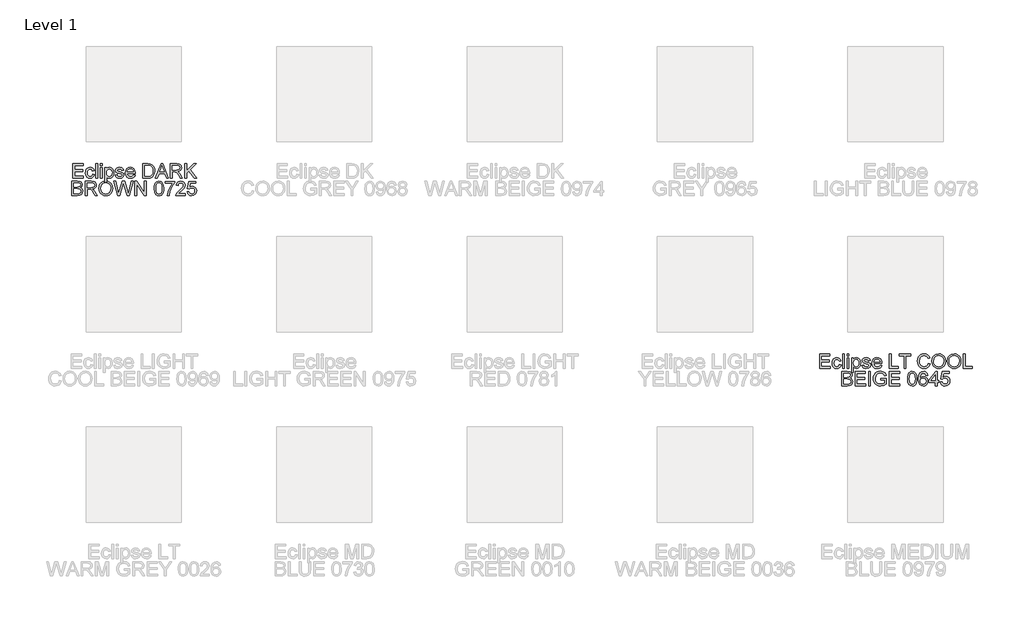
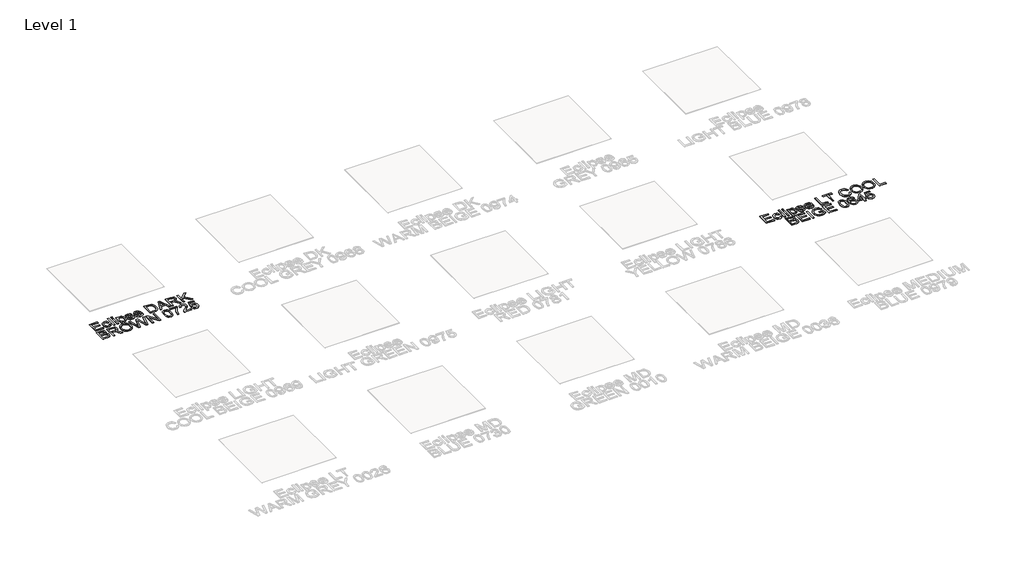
# One storey, part 10 of 13: 2 proxies.
"""IFC4 building model written with IfcOpenShell, lengths in millimetres."""

from ifc_helpers import new_model, si_unit, origin, origin_with_axes, place, context, project, spatial, polyline, outline, extrude, element, save

model = new_model("IFC4")

# Units and contexts
model_context = context("Model", 3, world=origin())
ifc_project = project(units=[si_unit("LENGTHUNIT", "METRE", prefix="MILLI")], contexts=[model_context])

# Site, building, storey
site = spatial("IfcSite", under=ifc_project)
building = spatial("IfcBuilding", under=site)
storey = spatial("IfcBuildingStorey", under=building, Name="Level 1", Elevation=0.0)

# Proxies
placement = place(None, origin())
element("IfcBuildingElementProxy", 1, Name="150mm Arial", ObjectType="150mm Arial", at=placement, inside=storey, context=model_context, shape_type="SweptSolid", body=[
    extrude(outline(polyline([(-2574.3498205, 637.0544578), (-2574.3498205, 787.738923), (-2466.0453611, 787.738923), (-2466.0453611, 768.9033648), (-2555.5142624, 768.9033648), (-2555.5142624, 724.1689142), (-2470.7542507, 724.1689142), (-2470.7542507, 705.3333561), (-2555.5142624, 705.3333561), (-2555.5142624, 655.8900159), (-2463.6909164, 655.8900159), (-2463.6909164, 637.0544578), (-2574.3498205, 637.0544578)])), origin_with_axes(), (0.0, 0.0, 1.0), 5.0),
    extrude(outline(polyline([(-2367.1586808, 677.0800188), (-2348.3231227, 674.7255741), (-2353.5746382, 657.9731477), (-2363.4430727, 645.3134086), (-2376.9995242, 637.3533619), (-2393.3150907, 634.700013), (-2413.3508639, 638.4018256), (-2429.0180383, 649.5072633), (-2439.1301947, 667.5288825), (-2442.5009134, 691.9792397), (-2441.0615751, 708.7408631), (-2436.7435602, 723.2676033), (-2429.4778908, 734.9984405), (-2419.195589, 743.3723544), (-2406.8945348, 748.3939436), (-2393.5726081, 750.0678067), (-2377.6571133, 747.7685442), (-2364.9329948, 740.8707568), (-2355.8049228, 729.7423265), (-2350.6775674, 714.7511352), (-2369.5131256, 712.3966904), (-2378.250323, 726.5049649), (-2393.4254553, 731.2322485), (-2405.5977508, 728.9053949), (-2415.2592517, 721.9248341), (-2421.5638294, 709.9134869), (-2423.6653553, 692.4942744), (-2421.6098146, 674.8405372), (-2415.4431927, 662.7878033), (-2405.9564357, 655.8486292), (-2393.9404901, 653.5355712), (-2384.1870187, 654.979508), (-2376.1901838, 659.3113185), (-2370.3730498, 666.6413672), (-2367.1586808, 677.0800188)])), origin_with_axes(), (0.0, 0.0, 1.0), 5.0),
    extrude(outline(polyline([(-2331.8420093, 637.0544578), (-2331.8420093, 787.738923), (-2313.0064511, 787.738923), (-2313.0064511, 637.0544578), (-2331.8420093, 637.0544578)])), origin_with_axes(), (0.0, 0.0, 1.0), 5.0),
    extrude(outline(polyline([(-2284.7531139, 768.9033648), (-2284.7531139, 787.738923), (-2265.9175558, 787.738923), (-2265.9175558, 768.9033648), (-2284.7531139, 768.9033648)])), origin_with_axes(), (0.0, 0.0, 1.0), 5.0),
    extrude(outline(polyline([(-2284.7531139, 637.0544578), (-2284.7531139, 747.7133619), (-2265.9175558, 747.7133619), (-2265.9175558, 637.0544578), (-2284.7531139, 637.0544578)])), origin_with_axes(), (0.0, 0.0, 1.0), 5.0),
    extrude(outline(polyline([(-2237.6642185, 594.6744519), (-2237.6642185, 747.7133619), (-2218.8286604, 747.7133619), (-2218.8286604, 729.2456858), (-2205.8056377, 744.8622765), (-2188.2208784, 750.0678067), (-2175.4829643, 748.2467908), (-2164.3453369, 742.7837432), (-2155.2770457, 734.0097576), (-2148.7471403, 722.2559279), (-2143.4864278, 693.2300384), (-2144.9717513, 677.1214056), (-2149.427722, 662.7142269), (-2156.7117855, 650.739668), (-2166.6813876, 641.9288942), (-2178.292663, 636.5072333), (-2190.5017467, 634.700013), (-2206.8908896, 639.5376612), (-2218.8286604, 651.7697376), (-2218.8286604, 594.6744519), (-2237.6642185, 594.6744519)]), holes=[polyline([(-2218.8286604, 691.5009931), (-2216.7915138, 674.6152095), (-2210.6800742, 662.8061974), (-2201.6623668, 655.8532277), (-2190.9064169, 653.5355712), (-2179.9757232, 655.9360012), (-2170.7280895, 663.1372912), (-2164.4235118, 675.3785646), (-2162.3219859, 692.8989446), (-2164.372928, 709.6927577), (-2170.5257544, 721.6673167), (-2179.5296662, 728.8410156), (-2190.1338648, 731.2322485), (-2200.77945, 728.6892642), (-2210.1282512, 721.0603114), (-2216.6535581, 708.5845132), (-2218.8286604, 691.5009931)])]), origin_with_axes(), (0.0, 0.0, 1.0), 5.0),
    extrude(outline(polyline([(-2129.3597591, 670.0166845), (-2110.524201, 672.3711293), (-2107.5535539, 664.3145136), (-2101.8053977, 658.3916135), (-2081.8294054, 653.5355712), (-2062.6259652, 657.9869433), (-2056.3719713, 668.434792), (-2057.9446668, 673.235652), (-2062.6627534, 676.8960778), (-2082.0501346, 682.267155), (-2110.4138364, 691.482599), (-2122.7930655, 702.2431473), (-2127.0053144, 717.4366737), (-2123.6208, 731.4713718), (-2114.3869619, 742.195132), (-2102.412403, 747.7685442), (-2086.2072011, 750.0678067), (-2063.2881528, 746.3705926), (-2048.7200258, 736.3642024), (-2042.2453027, 719.4600247), (-2061.0808608, 717.1055799), (-2068.1625893, 727.4982463), (-2084.7356731, 731.2322485), (-2102.7618909, 727.6637932), (-2108.1697562, 719.3496601), (-2105.9256761, 713.8682184), (-2098.8991299, 709.7111518), (-2082.675534, 705.7012381), (-2055.029202, 696.835282), (-2042.1901204, 686.7921035), (-2037.5364132, 670.4213547), (-2042.9994608, 652.395137), (-2058.7632043, 639.316932), (-2082.0869228, 634.700013), (-2101.0788308, 636.9256991), (-2114.9387849, 643.6027573), (-2124.1910171, 654.6576112), (-2129.3597591, 670.0166845)])), origin_with_axes(), (0.0, 0.0, 1.0), 5.0),
    extrude(outline(polyline([(-1938.870462, 670.0166845), (-1920.4027859, 667.6622398), (-1927.0568515, 653.7471033), (-1937.6748456, 643.3452399), (-1952.0176448, 636.8613197), (-1969.846126, 634.700013), (-1991.9466369, 638.4294167), (-2008.9519821, 649.6176279), (-2019.7953039, 667.5380796), (-2023.4097445, 691.4642049), (-2019.7585157, 716.195072), (-2008.8048293, 734.6903393), (-1992.0294103, 746.2234398), (-1970.9129838, 750.0678067), (-1950.4541464, 746.2326369), (-1934.1063902, 734.7271275), (-1923.3872286, 716.2686484), (-1919.8141747, 691.5745695), (-1919.9245393, 686.4977979), (-2004.5741864, 686.4977979), (-2001.3138322, 672.3987205), (-1993.7400616, 662.0336452), (-1982.8093678, 655.6600897), (-1969.478244, 653.5355712), (-1951.0105679, 657.4719085), (-1938.870462, 670.0166845)]), holes=[polyline([(-2004.5741864, 705.3333561), (-1938.6497328, 705.3333561), (-1941.1973157, 715.284564), (-1946.1913138, 722.4030807), (-1957.1725913, 729.0249566), (-1970.9865602, 731.2322485), (-1983.6830876, 729.4710135), (-1994.18152, 724.1873083), (-2001.4793791, 715.9513502), (-2004.5741864, 705.3333561)])]), origin_with_axes(), (0.0, 0.0, 1.0), 5.0),
    extrude(outline(polyline([(-1839.7630525, 637.0544578), (-1839.7630525, 787.738923), (-1787.7813266, 787.738923), (-1760.8891528, 785.5684192), (-1738.7426567, 774.7894768), (-1728.3223992, 763.3115585), (-1720.9003799, 749.0377371), (-1716.4582048, 732.243924), (-1714.9774798, 713.2060308), (-1718.9873935, 682.8005839), (-1729.2880894, 660.8564229), (-1743.046876, 647.1896067), (-1761.0546997, 639.6296317), (-1785.2797291, 637.0544578), (-1839.7630525, 637.0544578)]), holes=[polyline([(-1820.9274944, 655.8900159), (-1787.5973856, 655.8900159), (-1763.3539621, 658.6123427), (-1749.3744463, 666.3010764), (-1737.9149222, 685.0078758), (-1733.8130379, 713.5003364), (-1735.8225933, 734.0281517), (-1741.8512595, 749.1848899), (-1750.7586023, 759.5959504), (-1761.4041876, 765.8867325), (-1788.1124204, 768.9033648), (-1820.9274944, 768.9033648), (-1820.9274944, 655.8900159)])]), origin_with_axes(), (0.0, 0.0, 1.0), 5.0),
    extrude(outline(polyline([(-1706.6265585, 637.0544578), (-1646.4778523, 787.738923), (-1630.4381973, 787.738923), (-1570.2894911, 637.0544578), (-1590.191907, 637.0544578), (-1607.4455726, 684.1433532), (-1669.5072652, 684.1433532), (-1686.7241426, 637.0544578), (-1706.6265585, 637.0544578)]), holes=[polyline([(-1662.5910837, 702.9789113), (-1614.3249659, 702.9789113), (-1627.8998115, 740.0246282), (-1638.4580248, 768.9033648), (-1647.8390157, 743.2619898), (-1662.5910837, 702.9789113)])]), origin_with_axes(), (0.0, 0.0, 1.0), 5.0),
    extrude(outline(polyline([(-1550.1663459, 637.0544578), (-1550.1663459, 787.738923), (-1485.2351738, 787.738923), (-1455.0872443, 783.6738269), (-1445.807421, 778.0452324), (-1438.6061309, 769.2896409), (-1433.9846133, 758.4325236), (-1432.4441075, 746.4993513), (-1434.9962888, 731.6553128), (-1442.6528329, 719.3496601), (-1455.6436658, 710.3273542), (-1474.1987139, 705.3333561), (-1463.4933479, 697.2767404), (-1448.2262451, 677.8893592), (-1423.0999048, 637.0544578), (-1444.9888835, 637.0544578), (-1464.5969939, 668.2876392), (-1478.7604507, 688.9626073), (-1488.7116586, 698.7298743), (-1497.6695852, 702.3167237), (-1508.5956805, 702.9789113), (-1531.3307878, 702.9789113), (-1531.3307878, 637.0544578), (-1550.1663459, 637.0544578)]), holes=[polyline([(-1531.3307878, 721.8144695), (-1489.1715111, 721.8144695), (-1467.6688085, 724.4816139), (-1455.4551263, 733.0164762), (-1451.2796656, 745.8003755), (-1453.2708269, 754.9882284), (-1459.2443108, 762.3918535), (-1469.5220141, 767.275487), (-1484.4258334, 768.9033648), (-1531.3307878, 768.9033648), (-1531.3307878, 721.8144695)])]), origin_with_axes(), (0.0, 0.0, 1.0), 5.0),
    extrude(outline(polyline([(-1399.4818807, 637.0544578), (-1399.4818807, 787.738923), (-1380.6463226, 787.738923), (-1380.6463226, 713.978583), (-1303.3911036, 787.738923), (-1277.0507527, 787.738923), (-1341.9083485, 725.787595), (-1274.696308, 637.0544578), (-1297.7257209, 637.0544578), (-1355.2624649, 713.058878), (-1380.6463226, 688.8522427), (-1380.6463226, 637.0544578), (-1399.4818807, 637.0544578)])), origin_with_axes(), (0.0, 0.0, 1.0), 5.0),
    extrude(outline(polyline([(-2583.7675996, 454.092231), (-2583.7675996, 604.7766962), (-2526.2676437, 604.7766962), (-2498.106277, 600.3437182), (-2488.6425127, 594.7197222), (-2481.4780108, 586.7136903), (-2475.4631402, 567.4366737), (-2480.5215176, 549.8335202), (-2495.8070145, 536.4977979), (-2485.1338382, 530.9243857), (-2477.2473679, 522.4447057), (-2472.37753, 511.619778), (-2470.7542507, 499.0106226), (-2475.1872287, 478.7587188), (-2486.1685063, 464.3377446), (-2502.5576492, 456.6857991), (-2526.7091021, 454.092231), (-2583.7675996, 454.092231)]), holes=[polyline([(-2564.9320414, 543.5611322), (-2530.5350749, 543.5611322), (-2510.448718, 545.179813), (-2498.3637944, 552.1511768), (-2494.2986984, 564.4200414), (-2498.0878829, 576.7073), (-2508.9404018, 583.9729694), (-2533.1470371, 585.9411381), (-2564.9320414, 585.9411381), (-2564.9320414, 543.5611322)]), polyline([(-2564.9320414, 472.9277892), (-2526.3044319, 472.9277892), (-2512.3249161, 473.6635531), (-2500.49751, 477.7654374), (-2492.6616235, 486.1347528), (-2489.5898088, 498.8266816), (-2493.1950524, 513.468385), (-2504.8753057, 522.2055824), (-2528.1438419, 524.7255741), (-2564.9320414, 524.7255741), (-2564.9320414, 472.9277892)])]), origin_with_axes(), (0.0, 0.0, 1.0), 5.0),
    extrude(outline(polyline([(-2444.8553582, 454.092231), (-2444.8553582, 604.7766962), (-2379.9241861, 604.7766962), (-2349.7762566, 600.7116002), (-2340.4964332, 595.0830057), (-2333.2951432, 586.3274142), (-2328.6736256, 575.4702968), (-2327.1331198, 563.5371246), (-2329.6853011, 548.6930861), (-2337.3418451, 536.3874333), (-2350.3326781, 527.3651274), (-2368.8877262, 522.3711293), (-2358.1823601, 514.3145136), (-2342.9152573, 494.9271325), (-2317.7889171, 454.092231), (-2339.6778958, 454.092231), (-2359.2860061, 485.3254124), (-2373.4494629, 506.0003805), (-2383.4006709, 515.7676475), (-2392.3585975, 519.3544969), (-2403.2846928, 520.0166845), (-2426.0198001, 520.0166845), (-2426.0198001, 454.092231), (-2444.8553582, 454.092231)]), holes=[polyline([(-2426.0198001, 538.8522427), (-2383.8605234, 538.8522427), (-2362.3578208, 541.5193872), (-2350.1441386, 550.0542494), (-2345.9686779, 562.8381488), (-2347.9598392, 572.0260016), (-2353.9333231, 579.4296268), (-2364.2110263, 584.3132602), (-2379.1148457, 585.9411381), (-2426.0198001, 585.9411381), (-2426.0198001, 538.8522427)])]), origin_with_axes(), (0.0, 0.0, 1.0), 5.0),
    extrude(outline(polyline([(-2301.2342273, 527.4479008), (-2296.2126381, 560.7688126), (-2289.9356515, 574.3873442), (-2281.1478704, 585.9779263), (-2258.1460486, 601.8428373), (-2229.3132972, 607.131141), (-2209.548837, 604.6479375), (-2191.8261219, 597.1983271), (-2177.1108421, 585.3065416), (-2166.3686879, 569.4968129), (-2159.8019942, 550.532496), (-2157.6130964, 529.1769462), (-2159.9169574, 507.5362879), (-2166.8285404, 488.3052566), (-2177.9661678, 472.4679367), (-2192.948162, 461.0084125), (-2210.5191258, 454.0554428), (-2229.4236618, 451.7377862), (-2249.4916247, 454.2991646), (-2267.3155073, 461.9832998), (-2281.9939989, 474.0958145), (-2292.6257886, 489.9423314), (-2299.0821176, 508.1754828), (-2301.2342273, 527.4479008)]), holes=[polyline([(-2282.3986691, 527.2639598), (-2278.6324772, 503.691921), (-2267.3339014, 485.7300826), (-2250.3515488, 474.3625289), (-2229.5340264, 470.5733444), (-2208.4130014, 474.3993171), (-2191.4030576, 485.8772354), (-2180.1872553, 504.3908968), (-2176.4486545, 529.324099), (-2178.0489412, 545.9983504), (-2182.8498012, 560.4101276), (-2190.7270745, 572.196147), (-2201.5566007, 580.9931252), (-2214.6210101, 586.4699684), (-2229.2029326, 588.2955828), (-2249.4640335, 584.7777113), (-2266.6901079, 574.2240965), (-2278.4715288, 555.4483192), (-2282.3986691, 527.2639598)])]), origin_with_axes(), (0.0, 0.0, 1.0), 5.0),
    extrude(outline(polyline([(-2104.7484537, 454.092231), (-2145.8408725, 604.7766962), (-2126.4167032, 604.7766962), (-2102.5779499, 505.7428631), (-2095.22031, 475.1718693), (-2087.3476353, 502.211196), (-2057.4756173, 604.7766962), (-2029.4797975, 604.7766962), (-2007.7747597, 530.427745), (-1991.6247402, 475.1718693), (-1984.4878294, 504.8599463), (-1960.428347, 604.7766962), (-1941.0041776, 604.7766962), (-1982.1333847, 454.092231), (-2002.2565298, 454.092231), (-2038.3825417, 570.3429415), (-2043.4225251, 586.5665375), (-2049.0879078, 567.0320035), (-2082.0133464, 454.092231), (-2104.7484537, 454.092231)])), origin_with_axes(), (0.0, 0.0, 1.0), 5.0),
    extrude(outline(polyline([(-1922.1686195, 454.092231), (-1922.1686195, 604.7766962), (-1902.0086861, 604.7766962), (-1823.2819392, 485.3989888), (-1823.2819392, 604.7766962), (-1804.446381, 604.7766962), (-1804.446381, 454.092231), (-1824.6063143, 454.092231), (-1903.3330613, 573.5067266), (-1903.3330613, 454.092231), (-1922.1686195, 454.092231)])), origin_with_axes(), (0.0, 0.0, 1.0), 5.0),
    extrude(outline(polyline([(-1719.6863693, 528.220453), (-1718.3022133, 552.3397163), (-1714.1497453, 571.5753462), (-1707.270352, 586.2216481), (-1697.7054201, 596.5729277), (-1685.3859718, 602.7257541), (-1670.2430292, 604.7766962), (-1648.2436859, 599.9206539), (-1633.0501595, 585.922744), (-1624.2209916, 563.6290951), (-1620.799689, 528.220453), (-1622.1700494, 504.2391455), (-1626.2811307, 485.0495009), (-1633.1191373, 470.3894034), (-1642.6702736, 459.996737), (-1655.0173131, 453.8025239), (-1670.2430292, 451.7377862), (-1689.8143513, 455.3246357), (-1704.6767839, 466.085184), (-1715.933973, 491.5702093), (-1719.6863693, 528.220453)]), holes=[polyline([(-1700.8508112, 528.2572412), (-1698.6435192, 498.628945), (-1692.0216433, 481.4810455), (-1682.1624058, 473.3002697), (-1670.2430292, 470.5733444), (-1658.3236525, 473.3094667), (-1648.4644151, 481.5178337), (-1641.8425391, 498.6749303), (-1639.6352472, 528.2572412), (-1641.7689627, 557.2187513), (-1648.1701095, 574.500008), (-1658.0109528, 583.0808556), (-1670.4637584, 585.9411381), (-1682.2543763, 583.4211464), (-1691.7273377, 575.8611714), (-1698.5699428, 557.5038598), (-1700.8508112, 528.2572412)])]), origin_with_axes(), (0.0, 0.0, 1.0), 5.0),
    extrude(outline(polyline([(-1604.3185756, 583.5866933), (-1604.3185756, 602.4222515), (-1505.4318953, 602.4222515), (-1505.4318953, 587.1919369), (-1533.4828975, 546.6697351), (-1545.7931487, 521.2077025), (-1554.9488119, 495.0374971), (-1561.9385698, 454.092231), (-1580.7741279, 454.092231), (-1573.2877293, 496.5826014), (-1564.5735246, 521.0421556), (-1552.7415199, 544.6095959), (-1524.2674535, 583.5866933), (-1604.3185756, 583.5866933)])), origin_with_axes(), (0.0, 0.0, 1.0), 5.0),
    extrude(outline(polyline([(-1392.4185464, 472.9277892), (-1392.4185464, 454.092231), (-1491.3052267, 454.092231), (-1489.2818757, 467.0784654), (-1477.8407457, 487.0728519), (-1454.2595098, 508.9066483), (-1421.7387414, 540.2869825), (-1415.6410974, 551.1027131), (-1413.6085493, 561.6241382), (-1415.5261342, 571.0557128), (-1421.2788889, 578.8961979), (-1430.1218524, 584.179903), (-1441.3100636, 585.9411381), (-1453.0592948, 584.2212897), (-1462.1873668, 579.0617448), (-1468.0780772, 570.8671733), (-1470.1152238, 560.0422456), (-1488.9507819, 562.3966904), (-1484.3844467, 580.6160462), (-1474.5114136, 593.9241774), (-1459.8467176, 602.0635665), (-1440.9053934, 604.7766962), (-1421.8261134, 601.7600639), (-1407.1890085, 592.7101668), (-1397.8769955, 579.1905035), (-1394.7729912, 562.7645724), (-1398.1207173, 544.9039015), (-1409.2491477, 526.4362254), (-1436.233292, 500.6293034), (-1457.9015416, 482.5111151), (-1466.3996156, 472.9277892), (-1392.4185464, 472.9277892)])), origin_with_axes(), (0.0, 0.0, 1.0), 5.0),
    extrude(outline(polyline([(-1373.5829883, 494.1177921), (-1354.7474301, 496.4722368), (-1351.2893393, 485.164464), (-1345.2560746, 477.0664616), (-1336.6752271, 472.1966237), (-1325.5743879, 470.5733444), (-1312.0731187, 472.8312201), (-1301.9563638, 479.6048474), (-1295.6379905, 490.1124769), (-1293.5318661, 503.5723594), (-1295.5046333, 516.2458941), (-1301.4229349, 525.9395847), (-1311.3327561, 532.092411), (-1325.2800823, 534.1433532), (-1341.816378, 530.8692034), (-1352.3929853, 522.3711293), (-1371.2285435, 524.7255741), (-1354.7474301, 602.4222515), (-1281.7596423, 602.4222515), (-1281.7596423, 583.5866933), (-1339.5171155, 583.5866933), (-1347.5737312, 542.0896042), (-1334.1184472, 550.2565845), (-1320.0193698, 552.9789113), (-1302.4208148, 549.603594), (-1287.8113011, 539.4776421), (-1277.9750562, 524.0449924), (-1274.696308, 504.7495817), (-1277.648561, 485.9140236), (-1286.50532, 469.8007922), (-1303.46468, 456.2535377), (-1325.6479643, 451.7377862), (-1344.1478301, 454.6394555), (-1358.8861026, 463.3444632), (-1368.9890618, 476.8411339), (-1373.5829883, 494.1177921)])), origin_with_axes(), (0.0, 0.0, 1.0), 5.0),
])
element("IfcBuildingElementProxy", 2, Name="150mm Arial", ObjectType="150mm Arial", at=placement, inside=storey, context=model_context, shape_type="SweptSolid", body=[
    extrude(outline(polyline([(5269.0796023, -1362.9455422), (5269.0796023, -1212.261077), (5377.3840617, -1212.261077), (5377.3840617, -1231.0966352), (5287.9151605, -1231.0966352), (5287.9151605, -1275.8310858), (5372.6751722, -1275.8310858), (5372.6751722, -1294.6666439), (5287.9151605, -1294.6666439), (5287.9151605, -1344.1099841), (5379.7385065, -1344.1099841), (5379.7385065, -1362.9455422), (5269.0796023, -1362.9455422)])), origin_with_axes(), (0.0, 0.0, 1.0), 5.0),
    extrude(outline(polyline([(5476.270742, -1322.9199812), (5495.1063002, -1325.2744259), (5489.8547847, -1342.0268523), (5479.9863502, -1354.6865914), (5466.4298987, -1362.6466381), (5450.1143322, -1365.299987), (5430.078559, -1361.5981744), (5414.4113845, -1350.4927367), (5404.2992282, -1332.4711175), (5400.9285094, -1308.0207603), (5402.3678477, -1291.2591369), (5406.6858626, -1276.7323967), (5413.951532, -1265.0015595), (5424.2338338, -1256.6276456), (5436.534888, -1251.6060564), (5449.8568148, -1249.9321933), (5465.7723096, -1252.2314558), (5478.4964281, -1259.1292432), (5487.6245001, -1270.2576735), (5492.7518554, -1285.2488648), (5473.9162973, -1287.6033096), (5465.1790999, -1273.4950351), (5450.0039676, -1268.7677515), (5437.8316721, -1271.0946051), (5428.1701712, -1278.0751659), (5421.8655935, -1290.0865131), (5419.7640676, -1307.5057256), (5421.8196082, -1325.1594628), (5427.9862302, -1337.2121967), (5437.4729871, -1344.1513708), (5449.4889328, -1346.4644288), (5459.2424042, -1345.020492), (5467.239239, -1340.6886815), (5473.0563731, -1333.3586328), (5476.270742, -1322.9199812)])), origin_with_axes(), (0.0, 0.0, 1.0), 5.0),
    extrude(outline(polyline([(5511.5874136, -1362.9455422), (5511.5874136, -1212.261077), (5530.4229717, -1212.261077), (5530.4229717, -1362.9455422), (5511.5874136, -1362.9455422)])), origin_with_axes(), (0.0, 0.0, 1.0), 5.0),
    extrude(outline(polyline([(5558.6763089, -1231.0966352), (5558.6763089, -1212.261077), (5577.5118671, -1212.261077), (5577.5118671, -1231.0966352), (5558.6763089, -1231.0966352)])), origin_with_axes(), (0.0, 0.0, 1.0), 5.0),
    extrude(outline(polyline([(5558.6763089, -1362.9455422), (5558.6763089, -1252.2866381), (5577.5118671, -1252.2866381), (5577.5118671, -1362.9455422), (5558.6763089, -1362.9455422)])), origin_with_axes(), (0.0, 0.0, 1.0), 5.0),
    extrude(outline(polyline([(5605.7652043, -1405.3255481), (5605.7652043, -1252.2866381), (5624.6007625, -1252.2866381), (5624.6007625, -1270.7543142), (5637.6237851, -1255.1377235), (5655.2085445, -1249.9321933), (5667.9464586, -1251.7532092), (5679.084086, -1257.2162568), (5688.1523771, -1265.9902424), (5694.6822826, -1277.7440721), (5699.9429951, -1306.7699616), (5698.4576715, -1322.8785944), (5694.0017009, -1337.2857731), (5686.7176374, -1349.260332), (5676.7480353, -1358.0711058), (5665.1367598, -1363.4927667), (5652.9276761, -1365.299987), (5636.5385332, -1360.4623388), (5624.6007625, -1348.2302624), (5624.6007625, -1405.3255481), (5605.7652043, -1405.3255481)]), holes=[polyline([(5624.6007625, -1308.4990069), (5626.637909, -1325.3847905), (5632.7493487, -1337.1938026), (5641.7670561, -1344.1467723), (5652.5230059, -1346.4644288), (5663.4536997, -1344.0639988), (5672.7013333, -1336.8627088), (5679.005911, -1324.6214354), (5681.1074369, -1307.1010554), (5679.0564948, -1290.3072423), (5672.9036684, -1278.3326833), (5663.8997566, -1271.1589844), (5653.2955581, -1268.7677515), (5642.6499729, -1271.3107358), (5633.3011717, -1278.9396886), (5626.7758648, -1291.4154868), (5624.6007625, -1308.4990069)])]), origin_with_axes(), (0.0, 0.0, 1.0), 5.0),
    extrude(outline(polyline([(5714.0696637, -1329.9833155), (5732.9052219, -1327.6288707), (5735.875869, -1335.6854864), (5741.6240251, -1341.6083865), (5761.6000175, -1346.4644288), (5780.8034576, -1342.0130567), (5787.0574515, -1331.565208), (5785.484756, -1326.764348), (5780.7666694, -1323.1039222), (5761.3792883, -1317.732845), (5733.0155865, -1308.517401), (5720.6363573, -1297.7568527), (5716.4241085, -1282.5633263), (5719.8086228, -1268.5286282), (5729.0424609, -1257.804868), (5741.0170199, -1252.2314558), (5757.2222217, -1249.9321933), (5780.14127, -1253.6294074), (5794.709397, -1263.6357976), (5801.1841202, -1280.5399753), (5782.348562, -1282.8944201), (5775.2668336, -1272.5017537), (5758.6937497, -1268.7677515), (5740.667532, -1272.3362068), (5735.2596666, -1280.6503399), (5737.5037468, -1286.1317816), (5744.5302929, -1290.2888482), (5760.7538889, -1294.2987619), (5788.4002208, -1303.164718), (5801.2393025, -1313.2078965), (5805.8930097, -1329.5786453), (5800.4299621, -1347.604863), (5784.6662186, -1360.683068), (5761.3425001, -1365.299987), (5742.3505921, -1363.0743009), (5728.4906379, -1356.3972427), (5719.2384057, -1345.3423888), (5714.0696637, -1329.9833155)])), origin_with_axes(), (0.0, 0.0, 1.0), 5.0),
    extrude(outline(polyline([(5904.5589608, -1329.9833155), (5923.026637, -1332.3377602), (5916.3725714, -1346.2528967), (5905.7545773, -1356.6547601), (5891.411778, -1363.1386803), (5873.5832968, -1365.299987), (5851.482786, -1361.5705833), (5834.4774407, -1350.3823721), (5823.6341189, -1332.4619204), (5820.0196783, -1308.5357951), (5823.6709071, -1283.804928), (5834.6245935, -1265.3096607), (5851.4000125, -1253.7765602), (5872.516439, -1249.9321933), (5892.9752765, -1253.7673631), (5909.3230326, -1265.2728725), (5920.0421943, -1283.7313516), (5923.6152482, -1308.4254305), (5923.5048836, -1313.5022021), (5838.8552365, -1313.5022021), (5842.1155907, -1327.6012795), (5849.6893612, -1337.9663548), (5860.620055, -1344.3399103), (5873.9511788, -1346.4644288), (5892.418855, -1342.5280915), (5904.5589608, -1329.9833155)]), holes=[polyline([(5838.8552365, -1294.6666439), (5904.77969, -1294.6666439), (5902.2321072, -1284.715436), (5897.2381091, -1277.5969193), (5886.2568315, -1270.9750434), (5872.4428626, -1268.7677515), (5859.7463353, -1270.5289865), (5849.2479028, -1275.8126917), (5841.9500438, -1284.0486498), (5838.8552365, -1294.6666439)])]), origin_with_axes(), (0.0, 0.0, 1.0), 5.0),
    extrude(outline(polyline([(6003.6663703, -1362.9455422), (6003.6663703, -1212.261077), (6022.5019285, -1212.261077), (6022.5019285, -1344.1099841), (6097.8441611, -1344.1099841), (6097.8441611, -1362.9455422), (6003.6663703, -1362.9455422)])), origin_with_axes(), (0.0, 0.0, 1.0), 5.0),
    extrude(outline(polyline([(6156.7052803, -1362.9455422), (6156.7052803, -1231.0966352), (6107.2619401, -1231.0966352), (6107.2619401, -1212.261077), (6224.9841786, -1212.261077), (6224.9841786, -1231.0966352), (6175.5408385, -1231.0966352), (6175.5408385, -1362.9455422), (6156.7052803, -1362.9455422)])), origin_with_axes(), (0.0, 0.0, 1.0), 5.0),
    extrude(outline(polyline([(6410.9853154, -1309.3819237), (6429.8208735, -1314.2379661), (6421.1296614, -1336.1867256), (6407.4904364, -1352.2217821), (6389.5745832, -1362.0304358), (6368.0534865, -1365.299987), (6346.2058945, -1362.8259806), (6328.8556599, -1355.4039613), (6315.5567258, -1343.2914466), (6305.8630352, -1326.7459539), (6299.9447336, -1307.2941934), (6297.9719664, -1286.4628754), (6300.202251, -1264.4911233), (6306.8931048, -1245.5176094), (6317.6950399, -1230.1447405), (6332.2585684, -1218.9749234), (6349.5306281, -1212.173705), (6368.4581567, -1209.9066322), (6389.1101322, -1212.8404911), (6406.1844553, -1221.6420679), (6419.1476971, -1235.7687365), (6427.4664288, -1254.677871), (6408.6308706, -1259.1660314), (6402.1009652, -1245.4302374), (6393.1798268, -1236.0078598), (6381.7570909, -1230.5586077), (6367.7223927, -1228.7421904), (6351.544782, -1230.7563443), (6338.2550449, -1236.7988061), (6328.1704797, -1246.2349793), (6321.6083846, -1258.4302674), (6316.8075246, -1286.4260872), (6318.2284688, -1303.8269056), (6322.4913014, -1318.8732792), (6329.7569708, -1330.9903924), (6340.1864254, -1339.6034296), (6352.6898147, -1344.749179), (6366.1772884, -1346.4644288), (6381.8996451, -1344.1283782), (6395.0008427, -1337.1202262), (6404.8922698, -1325.5135492), (6410.9853154, -1309.3819237)])), origin_with_axes(), (0.0, 0.0, 1.0), 5.0),
    extrude(outline(polyline([(6448.6564317, -1289.5898724), (6453.6780209, -1256.2689607), (6459.9550074, -1242.6504291), (6468.7427886, -1231.059847), (6491.7446104, -1215.1949359), (6520.5773617, -1209.9066322), (6540.3418219, -1212.3898357), (6558.064537, -1219.8394461), (6572.7798168, -1231.7312316), (6583.5219711, -1247.5409603), (6590.0886647, -1266.5052772), (6592.2775626, -1287.860827), (6589.9737016, -1309.5014854), (6583.0621186, -1328.7325167), (6571.9244912, -1344.5698366), (6556.942497, -1356.0293607), (6539.3715332, -1362.9823304), (6520.4669971, -1365.299987), (6500.3990343, -1362.7386086), (6482.5751516, -1355.0544734), (6467.89666, -1342.9419587), (6457.2648704, -1327.0954418), (6450.8085413, -1308.8622904), (6448.6564317, -1289.5898724)]), holes=[polyline([(6467.4919898, -1289.7738134), (6471.2581818, -1313.3458522), (6482.5567575, -1331.3076906), (6499.5391101, -1342.6752443), (6520.3566325, -1346.4644288), (6541.4776576, -1342.6384561), (6558.4876013, -1331.1605378), (6569.7034037, -1312.6468764), (6573.4420044, -1287.7136742), (6571.8417178, -1271.0394228), (6567.0408577, -1256.6276456), (6559.1635845, -1244.8416262), (6548.3340583, -1236.044648), (6535.2696489, -1230.5678048), (6520.6877263, -1228.7421904), (6500.4266254, -1232.260062), (6483.200551, -1242.8136767), (6471.4191301, -1261.589454), (6467.4919898, -1289.7738134)])]), origin_with_axes(), (0.0, 0.0, 1.0), 5.0),
    extrude(outline(polyline([(6611.1131207, -1289.5898724), (6616.13471, -1256.2689607), (6622.4116965, -1242.6504291), (6631.1994777, -1231.059847), (6654.2012994, -1215.1949359), (6683.0340508, -1209.9066322), (6702.798511, -1212.3898357), (6720.5212261, -1219.8394461), (6735.2365059, -1231.7312316), (6745.9786602, -1247.5409603), (6752.5453538, -1266.5052772), (6754.7342517, -1287.860827), (6752.4303907, -1309.5014854), (6745.5188077, -1328.7325167), (6734.3811803, -1344.5698366), (6719.399186, -1356.0293607), (6701.8282222, -1362.9823304), (6682.9236862, -1365.299987), (6662.8557234, -1362.7386086), (6645.0318407, -1355.0544734), (6630.3533491, -1342.9419587), (6619.7215594, -1327.0954418), (6613.2652304, -1308.8622904), (6611.1131207, -1289.5898724)]), holes=[polyline([(6629.9486789, -1289.7738134), (6633.7148708, -1313.3458522), (6645.0134466, -1331.3076906), (6661.9957992, -1342.6752443), (6682.8133216, -1346.4644288), (6703.9343467, -1342.6384561), (6720.9442904, -1331.1605378), (6732.1600927, -1312.6468764), (6735.8986935, -1287.7136742), (6734.2984068, -1271.0394228), (6729.4975468, -1256.6276456), (6721.6202736, -1244.8416262), (6710.7907473, -1236.044648), (6697.726338, -1230.5678048), (6683.1444154, -1228.7421904), (6662.8833145, -1232.260062), (6645.6572401, -1242.8136767), (6633.8758192, -1261.589454), (6629.9486789, -1289.7738134)])]), origin_with_axes(), (0.0, 0.0, 1.0), 5.0),
    extrude(outline(polyline([(6780.6331441, -1362.9455422), (6780.6331441, -1212.261077), (6799.4687023, -1212.261077), (6799.4687023, -1344.1099841), (6874.8109349, -1344.1099841), (6874.8109349, -1362.9455422), (6780.6331441, -1362.9455422)])), origin_with_axes(), (0.0, 0.0, 1.0), 5.0),
    extrude(outline(polyline([(5503.3468569, -1545.907769), (5503.3468569, -1395.2233038), (5560.8468127, -1395.2233038), (5589.0081794, -1399.6562818), (5598.4719438, -1405.2802778), (5605.6364456, -1413.2863097), (5611.6513162, -1432.5633263), (5606.5929388, -1450.1664798), (5591.3074419, -1463.5022021), (5601.9806183, -1469.0756143), (5609.8670886, -1477.5552943), (5614.7369265, -1488.380222), (5616.3602058, -1500.9893774), (5611.9272277, -1521.2412812), (5600.9459502, -1535.6622554), (5584.5568073, -1543.3142009), (5560.4053543, -1545.907769), (5503.3468569, -1545.907769)]), holes=[polyline([(5522.182415, -1527.0722108), (5560.8100245, -1527.0722108), (5574.7895403, -1526.3364469), (5586.6169465, -1522.2345626), (5594.452833, -1513.8652472), (5597.5246476, -1501.1733184), (5593.9194041, -1486.531615), (5582.2391507, -1477.7944176), (5558.9706145, -1475.2744259), (5522.182415, -1475.2744259), (5522.182415, -1527.0722108)]), polyline([(5522.182415, -1456.4388678), (5556.5793816, -1456.4388678), (5576.6657385, -1454.820187), (5588.750662, -1447.8488232), (5592.8157581, -1435.5799586), (5589.0265735, -1423.2927), (5578.1740547, -1416.0270306), (5553.9674194, -1414.0588619), (5522.182415, -1414.0588619), (5522.182415, -1456.4388678)])]), origin_with_axes(), (0.0, 0.0, 1.0), 5.0),
    extrude(outline(polyline([(5642.2590982, -1545.907769), (5642.2590982, -1395.2233038), (5750.5635576, -1395.2233038), (5750.5635576, -1414.0588619), (5661.0946564, -1414.0588619), (5661.0946564, -1458.7933125), (5745.8546681, -1458.7933125), (5745.8546681, -1477.6288707), (5661.0946564, -1477.6288707), (5661.0946564, -1527.0722108), (5752.9180024, -1527.0722108), (5752.9180024, -1545.907769), (5642.2590982, -1545.907769)])), origin_with_axes(), (0.0, 0.0, 1.0), 5.0),
    extrude(outline(polyline([(5783.5257844, -1545.907769), (5783.5257844, -1395.2233038), (5802.3613425, -1395.2233038), (5802.3613425, -1545.907769), (5783.5257844, -1545.907769)])), origin_with_axes(), (0.0, 0.0, 1.0), 5.0),
    extrude(outline(polyline([(5910.6658019, -1487.0466498), (5910.6658019, -1468.2110916), (5971.8813659, -1468.2110916), (5971.8813659, -1524.5338251), (5941.65986, -1542.3025254), (5909.7093087, -1548.2622138), (5888.5790866, -1545.8939734), (5869.4814126, -1538.7892524), (5853.6165015, -1527.196371), (5842.1845685, -1511.3636497), (5835.2729855, -1492.3717416), (5832.9691245, -1471.3013004), (5835.2637885, -1450.0791078), (5842.1477803, -1430.3376402), (5853.3359915, -1413.7783519), (5868.5433135, -1402.1026971), (5887.0661719, -1395.1773185), (5908.2009926, -1392.868859), (5937.6683404, -1398.221542), (5949.4175716, -1404.6226887), (5958.3249144, -1413.1207628), (5969.7108622, -1438.044768), (5952.346832, -1442.9375985), (5943.7567874, -1425.5183861), (5929.0782958, -1415.4752076), (5907.906687, -1411.7044172), (5883.7920222, -1415.7695132), (5867.3844852, -1426.4380911), (5857.6907946, -1440.9510358), (5851.8046827, -1470.5287482), (5853.5751148, -1488.5411704), (5858.8864111, -1503.3622163), (5867.5776232, -1514.8861198), (5879.4878028, -1523.0071148), (5893.4259319, -1527.8217704), (5908.2009926, -1529.4266556), (5933.9711263, -1524.5890074), (5953.0458078, -1514.2699174), (5953.0458078, -1487.0466498), (5910.6658019, -1487.0466498)])), origin_with_axes(), (0.0, 0.0, 1.0), 5.0),
    extrude(outline(polyline([(6002.4891479, -1545.907769), (6002.4891479, -1395.2233038), (6110.7936073, -1395.2233038), (6110.7936073, -1414.0588619), (6021.3247061, -1414.0588619), (6021.3247061, -1458.7933125), (6106.0847178, -1458.7933125), (6106.0847178, -1477.6288707), (6021.3247061, -1477.6288707), (6021.3247061, -1527.0722108), (6113.1480521, -1527.0722108), (6113.1480521, -1545.907769), (6002.4891479, -1545.907769)])), origin_with_axes(), (0.0, 0.0, 1.0), 5.0),
    extrude(outline(polyline([(6193.1991742, -1471.779547), (6194.5833302, -1447.6602837), (6198.7357982, -1428.4246538), (6205.6151916, -1413.7783519), (6215.1801234, -1403.4270723), (6227.4995717, -1397.2742459), (6242.6425144, -1395.2233038), (6264.6418577, -1400.0793461), (6279.8353841, -1414.077256), (6288.664552, -1436.3709049), (6292.0858545, -1471.779547), (6290.7154941, -1495.7608545), (6286.6044128, -1514.9504991), (6279.7664062, -1529.6105966), (6270.2152699, -1540.003263), (6257.8682304, -1546.1974761), (6242.6425144, -1548.2622138), (6223.0711922, -1544.6753643), (6208.2087596, -1533.914816), (6196.9515706, -1508.4297907), (6193.1991742, -1471.779547)]), holes=[polyline([(6212.0347324, -1471.7427588), (6214.2420243, -1501.371055), (6220.8639003, -1518.5189545), (6230.7231377, -1526.6997303), (6242.6425144, -1529.4266556), (6254.561891, -1526.6905333), (6264.4211285, -1518.4821663), (6271.0430044, -1501.3250697), (6273.2502964, -1471.7427588), (6271.1165808, -1442.7812487), (6264.7154341, -1425.499992), (6254.8745907, -1416.9191444), (6242.4217852, -1414.0588619), (6230.6311672, -1416.5788536), (6221.1582059, -1424.1388286), (6214.3156007, -1442.4961402), (6212.0347324, -1471.7427588)])]), origin_with_axes(), (0.0, 0.0, 1.0), 5.0),
    extrude(outline(polyline([(6405.0992034, -1435.2488648), (6386.2636453, -1437.6033096), (6379.1267346, -1421.8947484), (6370.5826752, -1416.0178336), (6360.2543882, -1414.0588619), (6343.2582401, -1418.6205987), (6330.4007643, -1435.7455055), (6326.4966166, -1449.7756051), (6325.0480813, -1469.3147376), (6341.6579534, -1454.2867581), (6362.240951, -1449.3755335), (6379.6417694, -1452.7324567), (6394.2466846, -1462.8032263), (6404.1519073, -1478.1898907), (6407.4536482, -1497.4944984), (6405.8993468, -1510.9819721), (6401.2364425, -1523.4853614), (6393.8512114, -1534.0895599), (6384.1299297, -1541.8794612), (6372.5140557, -1546.6665256), (6359.4450478, -1548.2622138), (6338.0757024, -1544.0315708), (6321.0565616, -1531.339642), (6309.9235328, -1508.9356285), (6306.2125231, -1475.5687315), (6310.3328015, -1438.0539651), (6322.6936365, -1412.4033929), (6339.5702231, -1399.5183261), (6361.4316106, -1395.2233038), (6377.9587092, -1397.8812512), (6391.193264, -1405.8550934), (6400.4638903, -1418.5194311), (6405.0992034, -1435.2488648)]), holes=[polyline([(6325.0480813, -1497.2001928), (6329.4074829, -1513.5157593), (6340.9957658, -1525.3615596), (6357.9735199, -1529.4266556), (6370.4033328, -1527.3205312), (6380.1751983, -1521.0021579), (6386.5073671, -1511.0693441), (6388.6180901, -1498.1198978), (6386.5349583, -1485.6900849), (6380.2855629, -1476.212525), (6370.3481505, -1470.21145), (6357.2009677, -1468.2110916), (6344.7895489, -1470.21145), (6334.4106781, -1476.212525), (6327.3887305, -1485.4601587), (6325.0480813, -1497.2001928)])]), origin_with_axes(), (0.0, 0.0, 1.0), 5.0),
    extrude(outline(polyline([(6485.1503256, -1545.907769), (6485.1503256, -1510.5910975), (6416.8714273, -1510.5910975), (6416.8714273, -1491.7555393), (6489.8592151, -1397.5777485), (6503.9858837, -1397.5777485), (6503.9858837, -1491.7555393), (6522.8214419, -1491.7555393), (6522.8214419, -1510.5910975), (6503.9858837, -1510.5910975), (6503.9858837, -1545.907769), (6485.1503256, -1545.907769)]), holes=[polyline([(6485.1503256, -1491.7555393), (6485.1503256, -1433.5566077), (6440.047993, -1491.7555393), (6485.1503256, -1491.7555393)])]), origin_with_axes(), (0.0, 0.0, 1.0), 5.0),
    extrude(outline(polyline([(6539.3025553, -1505.8822079), (6558.1381134, -1503.5277632), (6561.5962042, -1514.835536), (6567.6294689, -1522.9335384), (6576.2103165, -1527.8033763), (6587.3111557, -1529.4266556), (6600.8124249, -1527.1687799), (6610.9291797, -1520.3951526), (6617.247553, -1509.8875231), (6619.3536774, -1496.4276406), (6617.3809102, -1483.7541059), (6611.4626086, -1474.0604153), (6601.5527874, -1467.907589), (6587.6054613, -1465.8566468), (6571.0691656, -1469.1307966), (6560.4925582, -1477.6288707), (6541.6570001, -1475.2744259), (6558.1381134, -1397.5777485), (6631.1259013, -1397.5777485), (6631.1259013, -1416.4133067), (6573.368428, -1416.4133067), (6565.3118123, -1457.9103958), (6578.7670963, -1449.7434155), (6592.8661738, -1447.0210887), (6610.4647287, -1450.396406), (6625.0742425, -1460.5223579), (6634.9104873, -1475.9550076), (6638.1892356, -1495.2504183), (6635.2369826, -1514.0859764), (6626.3802235, -1530.1992078), (6609.4208636, -1543.7464623), (6587.2375793, -1548.2622138), (6568.7377134, -1545.3605445), (6553.999441, -1536.6555368), (6543.8964817, -1523.1588661), (6539.3025553, -1505.8822079)])), origin_with_axes(), (0.0, 0.0, 1.0), 5.0),
])

save(model, "model.ifc")
